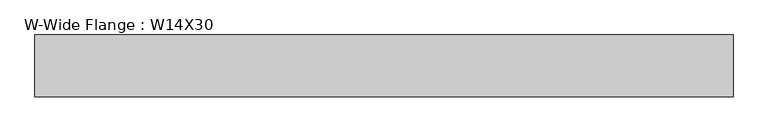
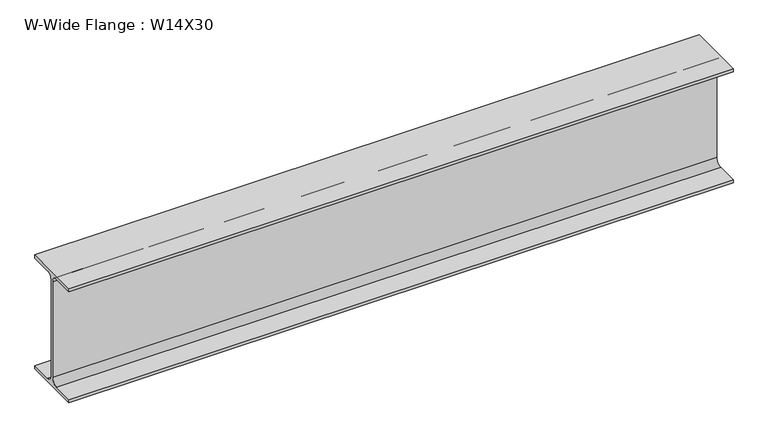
"""IFC4 building model written with IfcOpenShell, lengths in millimetres: beam geometry, W-Wide Flange : W14X30."""

import ifcopenshell
import ifcopenshell.guid

model = None  # the IFC model being written
_history = None  # IfcOwnerHistory: only IFC2X3 demands one
_inside = {}  # id of a spatial element -> (the spatial element, [elements in it])
_under = {}  # id of a project, library or spatial element -> (it, [spatial elements below it])
_declared = {}  # id of a project -> (the project, [libraries it declares])
_typed = {}  # id of a type object -> (the type object, [elements of that type])
_made_of = {}  # id of a material, layer set ... -> (it, [elements and type objects made of it])


def new_model(schema):
    """Start an empty IFC model of exactly this schema.

    Asked for "IFC4X3", IfcOpenShell would pick the latest addendum, in which some entities
    have other attributes; the version numbers below select the first issue.
    IFC2X3 requires an IfcOwnerHistory on every rooted entity: one is made here for all.
    """
    global model, _history
    if schema == "IFC4X3":
        model = ifcopenshell.file(schema_version=(4, 3, 0, 0))
    else:
        model = ifcopenshell.file(schema=schema)
    _inside.clear()
    _under.clear()
    _declared.clear()
    _typed.clear()
    _made_of.clear()
    _history = None
    if model.schema == "IFC2X3":
        org = make("IfcOrganization", Name="unknown")
        user = make(
            "IfcPersonAndOrganization",
            ThePerson=make("IfcPerson", FamilyName="unknown"),
            TheOrganization=org,
        )
        app = make(
            "IfcApplication",
            ApplicationDeveloper=org,
            Version="unknown",
            ApplicationFullName="unknown",
            ApplicationIdentifier="unknown",
        )
        _history = make(
            "IfcOwnerHistory",
            OwningUser=user,
            OwningApplication=app,
            ChangeAction="ADDED",
            CreationDate=0,
        )
    return model


def make(cls, **values):
    """One entity of the class cls with the attributes given. An attribute that is None is left unset."""
    return model.create_entity(
        cls, **{name: value for name, value in values.items() if value is not None}
    )


def rooted(cls, **values):
    """An entity with a GlobalId (a new one), such as an element, a storey or a relation."""
    return make(cls, GlobalId=ifcopenshell.guid.new(), OwnerHistory=_history, **values)


def si_unit(unit_type, name, prefix=None):
    """IfcSIUnit, for example si_unit("LENGTHUNIT", "METRE", prefix="MILLI")."""
    return make("IfcSIUnit", UnitType=unit_type, Prefix=prefix, Name=name)


def assignment(units):
    """IfcUnitAssignment: the units of a project."""
    return None if units is None else make("IfcUnitAssignment", Units=units)


def point(xyz):
    """IfcCartesianPoint."""
    return None if xyz is None else make("IfcCartesianPoint", Coordinates=xyz)


def direction(xyz):
    """IfcDirection."""
    return None if xyz is None else make("IfcDirection", DirectionRatios=xyz)


def frame(location, z_axis=None, x_axis=None):
    """IfcAxis2Placement3D, a coordinate frame: its origin and axes. An axis left out is left unset."""
    return make(
        "IfcAxis2Placement3D",
        Location=point(location),
        Axis=direction(z_axis),
        RefDirection=direction(x_axis),
    )


def frame_2d(location, x_axis=None):
    """IfcAxis2Placement2D, a coordinate frame in the plane: its origin and x axis."""
    return make(
        "IfcAxis2Placement2D", Location=point(location), RefDirection=direction(x_axis)
    )


def origin():
    """The frame at (0, 0, 0) with its axes left unset."""
    return frame((0.0, 0.0, 0.0))


def place(relative_to, where):
    """IfcLocalPlacement: puts the frame where relative to a parent placement (None: the world)."""
    return make(
        "IfcLocalPlacement", PlacementRelTo=relative_to, RelativePlacement=where
    )


def context(
    kind, dimensions, precision=None, world=None, true_north=None, identifier=None
):
    """IfcGeometricRepresentationContext, for example the 3D "Model" context."""
    return make(
        "IfcGeometricRepresentationContext",
        ContextIdentifier=identifier,
        ContextType=kind,
        CoordinateSpaceDimension=dimensions,
        Precision=precision,
        WorldCoordinateSystem=world,
        TrueNorth=true_north,
    )


def project(units=None, contexts=None):
    """IfcProject with its units and contexts."""
    return rooted(
        "IfcProject",
        Name="project",
        RepresentationContexts=contexts,
        UnitsInContext=assignment(units),
    )


def spatial(cls, under=None, at=None, **own):
    """A site, building, storey or space (cls), placed at a placement, below another one or the project."""
    s = rooted(cls, ObjectPlacement=at, **own)
    if under is not None:
        _under.setdefault(under.id(), (under, []))[1].append(s)
    return s


def polyline(points):
    """IfcPolyline through the points."""
    return make("IfcPolyline", Points=[point(p) for p in points])


def circle_curve(where, radius):
    """IfcCircle in the frame where."""
    return make("IfcCircle", Position=where, Radius=radius)


def trimmed(basis, trim1, trim2, sense, master):
    """IfcTrimmedCurve: the piece of a basis curve between two trims."""
    return make(
        "IfcTrimmedCurve",
        BasisCurve=basis,
        Trim1=trim1,
        Trim2=trim2,
        SenseAgreement=sense,
        MasterRepresentation=master,
    )


def segment(curve, same_sense, transition):
    """IfcCompositeCurveSegment."""
    return make(
        "IfcCompositeCurveSegment",
        Transition=transition,
        SameSense=same_sense,
        ParentCurve=curve,
    )


def composite_curve(segments, self_intersect=None):
    """IfcCompositeCurve: segments joined end to end."""
    return make("IfcCompositeCurve", Segments=segments, SelfIntersect=self_intersect)


def outline(outer, holes=None, kind="AREA"):
    """IfcArbitraryClosedProfileDef: a profile drawn as a closed curve; with holes, ...WithVoids."""
    if holes is None:
        return make("IfcArbitraryClosedProfileDef", ProfileType=kind, OuterCurve=outer)
    return make(
        "IfcArbitraryProfileDefWithVoids",
        ProfileType=kind,
        OuterCurve=outer,
        InnerCurves=holes,
    )


def extrude(swept, where, along, depth):
    """IfcExtrudedAreaSolid: the profile swept, set in the frame where, extruded along a direction by depth."""
    return make(
        "IfcExtrudedAreaSolid",
        SweptArea=swept,
        Position=where,
        ExtrudedDirection=direction(along),
        Depth=depth,
    )


def shape(context_of_items, identifier, shape_type, items):
    """IfcShapeRepresentation: the items that make up one representation, for example the "Body"."""
    return make(
        "IfcShapeRepresentation",
        ContextOfItems=context_of_items,
        RepresentationIdentifier=identifier,
        RepresentationType=shape_type,
        Items=items,
    )


def source(mapping_origin, context_of_items, identifier, shape_type, items):
    """IfcRepresentationMap: a shape defined once, which mapped items show again and again."""
    return make(
        "IfcRepresentationMap",
        MappingOrigin=mapping_origin,
        MappedRepresentation=shape(context_of_items, identifier, shape_type, items),
    )


def transform(
    local_origin,
    x_axis=None,
    y_axis=None,
    z_axis=None,
    scale=None,
    scale2=None,
    scale3=None,
    uniform=True,
):
    """IfcCartesianTransformationOperator3D, or its non-uniform kind. x_axis, y_axis, z_axis: its Axis1, 2, 3."""
    if uniform:
        return make(
            "IfcCartesianTransformationOperator3D",
            Axis1=direction(x_axis),
            Axis2=direction(y_axis),
            LocalOrigin=point(local_origin),
            Scale=scale,
            Axis3=direction(z_axis),
        )
    return make(
        "IfcCartesianTransformationOperator3DnonUniform",
        Axis1=direction(x_axis),
        Axis2=direction(y_axis),
        LocalOrigin=point(local_origin),
        Scale=scale,
        Axis3=direction(z_axis),
        Scale2=scale2,
        Scale3=scale3,
    )


def mapped(mapping_source, mapping_target):
    """IfcMappedItem: shows the shape of a source again, moved by a transform."""
    return make(
        "IfcMappedItem", MappingSource=mapping_source, MappingTarget=mapping_target
    )


def made_of(thing, what):
    """Note that an element or type object is made of a material, layer set ...; save() writes the relation."""
    if what is not None:
        _made_of.setdefault(what.id(), (what, []))[1].append(thing)
    return thing


def element(
    cls,
    number,
    at=None,
    inside=None,
    cuts=None,
    type_object=None,
    material=None,
    context=None,
    identifier="Body",
    shape_type=None,
    held_by="IfcProductDefinitionShape",
    body=None,
    shapes=None,
    **own,
):
    """One element of the class cls, such as IfcWall. Its Tag is "e" and its number.

    at: its placement. inside: the storey or other place that contains it. cuts: it is an
    opening in that element (IfcRelVoidsElement). A single representation is given by context,
    identifier, shape_type and body (its items); several are given by shapes. held_by: the class
    of the entity that holds the representations. save() writes the other relations.
    """
    e = rooted(cls, Tag="e%d" % number, ObjectPlacement=at, **own)
    if body is not None:
        shapes = [shape(context, identifier, shape_type, body)]
    if shapes is not None:
        e.Representation = make(held_by, Representations=shapes)
    if inside is not None:
        _inside.setdefault(inside.id(), (inside, []))[1].append(e)
    if cuts is not None:
        rooted(
            "IfcRelVoidsElement", RelatingBuildingElement=cuts, RelatedOpeningElement=e
        )
    if type_object is not None:
        _typed.setdefault(type_object.id(), (type_object, []))[1].append(e)
    return made_of(e, material)


def aggregate(whole, parts):
    """IfcRelAggregates: a whole, such as a stair, and the parts it consists of."""
    return rooted("IfcRelAggregates", RelatingObject=whole, RelatedObjects=parts)


def save(model, path):
    """Write the relations noted so far, then the file.

    IfcRelAggregates (storeys below a building ...), IfcRelContainedInSpatialStructure (elements
    in a storey), IfcRelDefinesByType, IfcRelAssociatesMaterial and IfcRelDeclares: one each for
    every whole, place, type object, material and project.
    """
    for whole, parts in _under.values():
        aggregate(whole, parts)
    for where, things in _inside.values():
        rooted(
            "IfcRelContainedInSpatialStructure",
            RelatedElements=things,
            RelatingStructure=where,
        )
    for kind, things in _typed.values():
        rooted("IfcRelDefinesByType", RelatedObjects=things, RelatingType=kind)
    for what, things in _made_of.values():
        rooted("IfcRelAssociatesMaterial", RelatedObjects=things, RelatingMaterial=what)
    for by, libraries in _declared.values():
        rooted("IfcRelDeclares", RelatingContext=by, RelatedDefinitions=libraries)
    model.write(path)


def w_wide_flange_w14x30_d1529a52(model_context):
    return source(origin(), model_context, "Body", "SweptSolid", [
        extrude(outline(composite_curve([segment(polyline([(85.471, -165.481), (85.471, -175.26), (-85.471, -175.26), (-85.471, -165.481), (-22.225, -165.481)]), True, "CONTINUOUS"), segment(trimmed(circle_curve(frame_2d((-22.225, -146.685)), 18.796), [point((-22.225, -165.481))], [point((-3.429, -146.685))], True, "CARTESIAN"), True, "CONTINUOUS"), segment(polyline([(-3.429, -146.685), (-3.429, 146.685)]), True, "CONTINUOUS"), segment(trimmed(circle_curve(frame_2d((-22.225, 146.685)), 18.796), [point((-3.429, 146.685))], [point((-22.225, 165.481))], True, "CARTESIAN"), True, "CONTINUOUS"), segment(polyline([(-22.225, 165.481), (-85.471, 165.481), (-85.471, 175.26), (85.471, 175.26), (85.471, 165.481), (22.225, 165.481)]), True, "CONTINUOUS"), segment(trimmed(circle_curve(frame_2d((22.225, 146.685)), 18.796), [point((22.225, 165.481))], [point((3.429, 146.685))], True, "CARTESIAN"), True, "CONTINUOUS"), segment(polyline([(3.429, 146.685), (3.429, -146.685)]), True, "CONTINUOUS"), segment(trimmed(circle_curve(frame_2d((22.225, -146.685)), 18.796), [point((3.429, -146.685))], [point((22.225, -165.481))], True, "CARTESIAN"), True, "CONTINUOUS"), segment(polyline([(22.225, -165.481), (85.471, -165.481)]), True, "CONTINUOUS")], self_intersect=False)), frame((-862.1489239, 0.0, 0.0), z_axis=(1.0, 0.0, 0.0), x_axis=(0.0, 1.0, 0.0)), (0.0, 0.0, 1.0), 1929.763636),
    ])


if __name__ == "__main__":
    model = new_model("IFC4")
    model_context = context("Model", 3, world=origin())
    ifc_project = project(units=[si_unit("LENGTHUNIT", "METRE", prefix="MILLI")], contexts=[model_context])
    site = spatial("IfcSite", under=ifc_project)
    building = spatial("IfcBuilding", under=site)
    placement = place(None, origin())
    w_wide_flange_w14x30_shape = w_wide_flange_w14x30_d1529a52(model_context)
    element("IfcBeam", 1, ObjectType="W-Wide Flange : W14X30", at=placement, inside=building, context=model_context, shape_type="MappedRepresentation", body=[
        mapped(w_wide_flange_w14x30_shape, transform((0.0, 0.0, 0.0), x_axis=(1.0, 0.0, 0.0), y_axis=(0.0, 1.0, 0.0), z_axis=(0.0, 0.0, 1.0))),
    ])
    save(model, "model.ifc")
